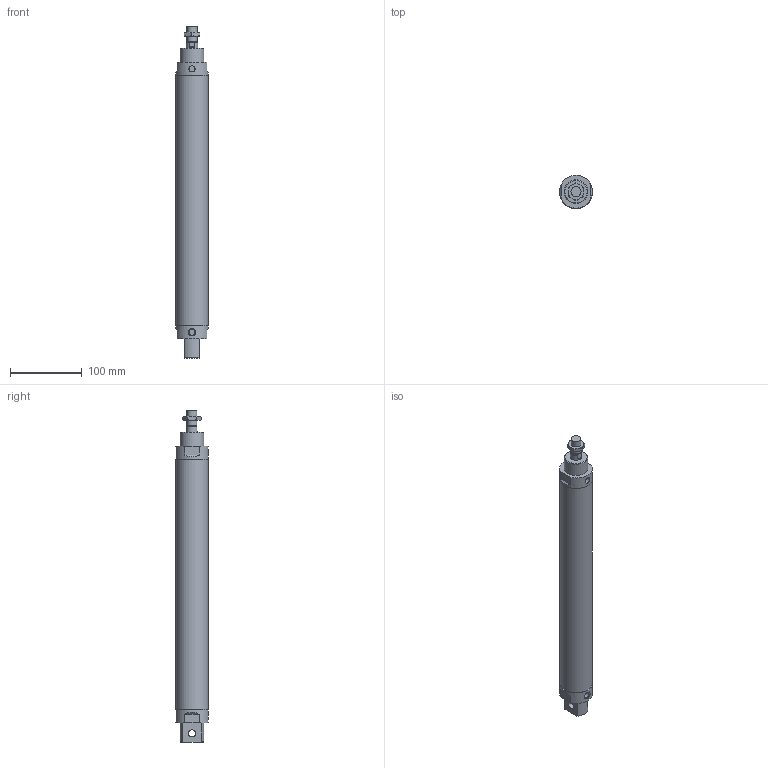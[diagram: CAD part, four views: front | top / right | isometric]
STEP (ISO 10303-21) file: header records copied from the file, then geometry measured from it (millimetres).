
FILE_DESCRIPTION((''),'2;1');
FILE_NAME('I:\3D電子目錄\氣缸\FDA\FDA\FDA\FDA40\FDA40x300.stp','2007-10-23T13:33:23',('66-2f-008'),(''),'Autodesk Inventor 11','Autodesk Inventor 11','');
FILE_SCHEMA(('AUTOMOTIVE_DESIGN { 1 0 10303 214 1 1 1 1 }'));
Length unit declared in the file: millimetre
Products named in the file (1): FDA40
Bounding box: 45.99 x 45.95 x 464 mm (x, y, z)
Volume: 652165.4 mm3; surface area: 65586.7 mm2
Topology: 1 solids, 1 shells, 62 faces, 144 edges, 95 vertices
Faces by surface type: plane 29, cone 15, cylinder 13, bspline 5
Full cylindrical faces by diameter (mm): 8.5 x2, 10 x1, 12 x1, 14 x2, 16 x1, 33 x1, 45 x1, 46 x2
Entity records: 1911 total; most frequent: CARTESIAN_POINT 620, DIRECTION 256, ORIENTED_EDGE 250, EDGE_CURVE 125, AXIS2_PLACEMENT_3D 106, VERTEX_POINT 88, EDGE_LOOP 87, FACE_OUTER_BOUND 62
